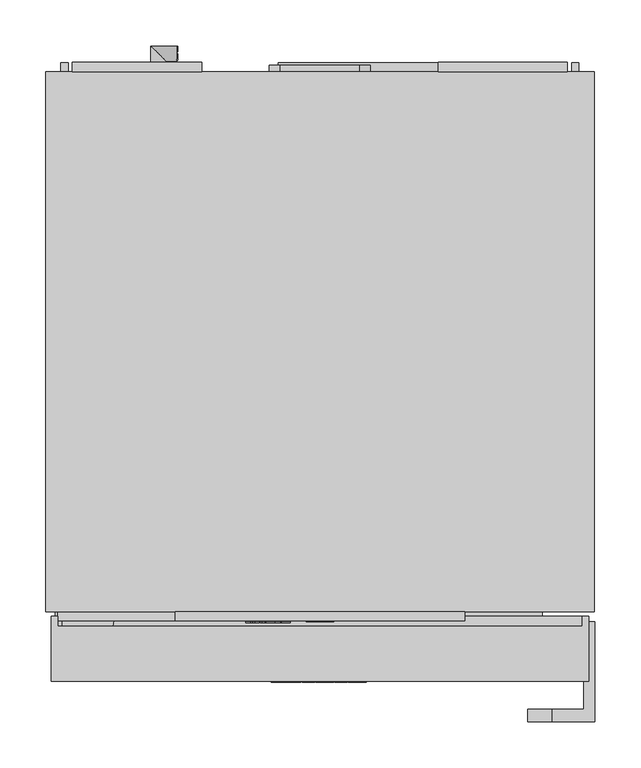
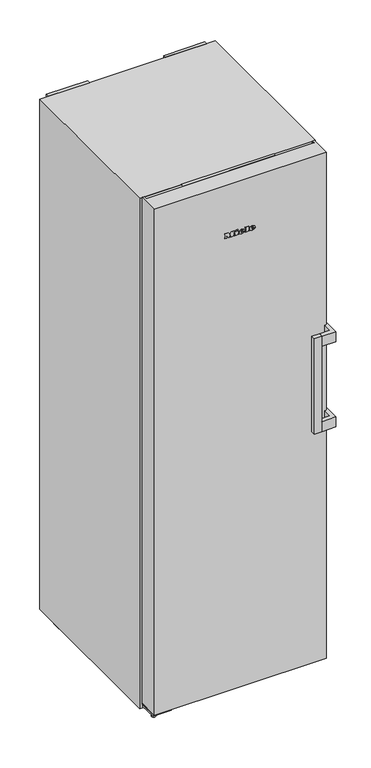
"""IFC4 building model written with IfcOpenShell, lengths in millimetres: proxy geometry, 12430480_EU2_FNS4382D_WS-N : 37438244_EU2_12430480_FNS4382D_WS-N."""

from ifc_helpers import new_model, si_unit, point, frame, frame_2d, origin, origin_with_axes, place, context, project, spatial, polyline, circle_curve, ellipse_curve, trimmed, segment, composite_curve, outline, extrude, faceted_brep, source, transform, mapped, element, save
from ifc_brep_helpers import plane_surface, cylinder_surface, revolved_surface, extruded_surface, advanced_brep


def specialty_equipment_2f4e0856(model_context):
    return source(origin(), model_context, "Body", "SolidModel", [
        extrude(outline(polyline([(15.0, -609.5), (-15.0, -609.5), (-15.0, -606.5), (15.0, -606.5), (15.0, -609.5)])), frame((0.0, 0.0, 1812.0), z_axis=(0.0, 0.0, 1.0), x_axis=(1.0, 0.0, 0.0)), (0.0, 0.0, 1.0), 28.0),
        extrude(outline(polyline([(1845.5, 105.0), (1845.5, -105.0), (1806.5, -105.0), (1806.5, 105.0), (1845.5, 105.0)]), holes=[polyline([(1840.0, -15.0), (1840.0, 15.0), (1812.0, 15.0), (1812.0, -15.0), (1840.0, -15.0)])]), frame((0.0, -608.5, 0.0), z_axis=(0.0, 1.0, 0.0), x_axis=(0.0, 0.0, 1.0)), (0.0, 0.0, 1.0), 2.0),
        faceted_brep([(157.5, -598.5, 1802.0), (157.5, -608.5, 1802.0), (-157.5, -608.5, 1802.0), (-157.5, -598.5, 1802.0), (157.5, -598.5, 1850.0), (-157.5, -598.5, 1850.0), (-157.5, -608.5, 1850.0), (157.5, -608.5, 1850.0), (-105.0, -608.5, 1845.5), (105.0, -608.5, 1845.5), (105.0, -608.5, 1806.5), (-105.0, -608.5, 1806.5), (105.0, -606.5, 1845.5), (-105.0, -606.5, 1845.5), (-105.0, -606.5, 1806.5), (105.0, -606.5, 1806.5)], [[[0, 1, 2, 3]], [[4, 5, 6, 7]], [[0, 3, 5, 4]], [[3, 2, 6, 5]], [[2, 1, 7, 6], [8, 9, 10, 11]], [[1, 0, 4, 7]], [[12, 13, 14, 15]], [[13, 12, 9, 8]], [[14, 13, 8, 11]], [[15, 14, 11, 10]], [[12, 15, 10, 9]]]),
        advanced_brep(
        [(39.0804776, -675.5, 1668.7956125), (39.0804776, -675.5, 1670.5126125), (50.4534776, -675.5, 1670.5126125), (30.6654776, -675.5, 1670.5126125), (35.3404776, -675.5, 1664.7666125), (50.1644776, -675.5, 1668.7956125), (45.0304776, -675.5, 1668.7956125), (40.9844776, -675.5, 1666.8916125), (39.0804776, -675.5, 1672.6886125), (39.0804776, -675.5, 1674.5416125), (41.9874776, -675.5, 1674.5416125), (41.9874776, -675.5, 1672.6886125), (39.0804776, -674.5, 1668.7956125), (40.9844776, -674.5, 1666.8916125), (45.0304776, -674.5, 1668.7956125), (50.1644776, -674.5, 1668.7956125), (35.3404776, -674.5, 1664.7666125), (30.6654776, -674.5, 1670.5126125), (50.4534776, -674.5, 1670.5126125), (39.0804776, -674.5, 1670.5126125), (39.0804776, -674.5, 1672.6886125), (41.9874776, -674.5, 1672.6886125), (41.9874776, -674.5, 1674.5416125), (39.0804776, -674.5, 1674.5416125)],
        [
            (0, 1),
            (1, 2),
            (2, 3, ellipse_curve(frame((40.5594776, -675.5, 1670.5126125), z_axis=(0.0, -1.0, 0.0), x_axis=(-1.0, 0.0, 0.0)), 9.894, 8.177)),
            (3, 4, circle_curve(frame((37.2445704, -675.5, 1671.0906125), z_axis=(0.0, -1.0, 0.0), x_axis=(0.0, 0.0, -1.0)), 6.6044337)),
            (4, 5, circle_curve(frame((40.361414, -675.5, 1675.5786125), z_axis=(0.0, -1.0, 0.0), x_axis=(0.0, 0.0, -1.0)), 11.9209541)),
            (5, 6),
            (6, 7, circle_curve(frame((41.8154776, -675.5, 1670.3766125), z_axis=(0.0, 1.0, 0.0), x_axis=(0.0, 0.0, -1.0)), 3.5827065)),
            (7, 0, circle_curve(frame((40.9844776, -675.5, 1668.7956125), z_axis=(0.0, 1.0, 0.0), x_axis=(0.0, 0.0, -1.0)), 1.904)),
            (8, 9),
            (9, 10, circle_curve(frame((40.5339776, -675.5, 1674.5416125), z_axis=(0.0, 1.0, 0.0), x_axis=(0.0, 0.0, -1.0)), 1.4535)),
            (10, 11),
            (11, 8),
            (12, 13, circle_curve(frame((40.9844776, -674.5, 1668.7956125), z_axis=(0.0, -1.0, 0.0), x_axis=(0.0, 0.0, -1.0)), 1.904)),
            (13, 14, circle_curve(frame((41.8154776, -674.5, 1670.3766125), z_axis=(0.0, -1.0, 0.0), x_axis=(0.0, 0.0, -1.0)), 3.5827065)),
            (14, 15),
            (15, 16, circle_curve(frame((40.361414, -674.5, 1675.5786125), z_axis=(0.0, 1.0, 0.0), x_axis=(0.0, 0.0, -1.0)), 11.9209541)),
            (16, 17, circle_curve(frame((37.2445704, -674.5, 1671.0906125), z_axis=(0.0, 1.0, 0.0), x_axis=(0.0, 0.0, -1.0)), 6.6044337)),
            (17, 18, ellipse_curve(frame((40.5594776, -674.5, 1670.5126125), z_axis=(0.0, 1.0, 0.0), x_axis=(-1.0, 0.0, 0.0)), 9.894, 8.177)),
            (18, 19),
            (19, 12),
            (20, 21),
            (21, 22),
            (22, 23, circle_curve(frame((40.5339776, -674.5, 1674.5416125), z_axis=(0.0, -1.0, 0.0), x_axis=(0.0, 0.0, -1.0)), 1.4535)),
            (23, 20),
            (0, 12),
            (19, 1),
            (18, 2),
            (5, 15),
            (14, 6),
            (17, 3),
            (13, 7),
            (16, 4),
            (8, 20),
            (23, 9),
            (22, 10),
            (21, 11),
        ],
        [
            plane_surface(frame((39.0804776, -675.5, 1670.5126125), z_axis=(0.0, -1.0, 0.0), x_axis=(0.0, 0.0, 1.0))),
            plane_surface(frame((39.0804776, -674.5, 1670.5126125), z_axis=(0.0, 1.0, 0.0), x_axis=(0.0, 0.0, -1.0))),
            plane_surface(frame((39.0804776, -675.5, 1668.7956125), z_axis=(1.0, 0.0, 0.0), x_axis=(0.0, 1.0, 0.0))),
            plane_surface(frame((39.0804776, -675.5, 1670.5126125), z_axis=(0.0, 0.0, -1.0), x_axis=(0.0, 1.0, 0.0))),
            plane_surface(frame((50.1644776, -675.5, 1668.7956125), z_axis=(0.0, 0.0, 1.0), x_axis=(0.0, 1.0, 0.0))),
            extruded_surface(trimmed(ellipse_curve(frame((40.5594776, -673.5, 1670.5126125), z_axis=(0.0, -1.0, 0.0), x_axis=(-1.0, 0.0, 0.0)), 9.894, 8.177), [point((50.4534776, -673.5, 1670.5126125))], [point((30.6654776, -673.5, 1670.5126125))], True, "CARTESIAN"), (0.0, -1.0, 0.0), 1.0),
            revolved_surface(polyline([(41.8154776, -674.5, 1666.7939059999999), (41.8154776, -675.5, 1666.7939059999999)]), (41.8154776, -674.5, 1670.3766125), (0.0, 1.0, 0.0)),
            revolved_surface(polyline([(40.9844776, -674.5, 1666.8916125), (40.9844776, -675.5, 1666.8916125)]), (40.9844776, -674.5, 1668.7956125), (0.0, 1.0, 0.0)),
            cylinder_surface(frame((37.2445704, -674.5, 1671.0906125), z_axis=(0.0, -1.0, 0.0), x_axis=(0.0, 0.0, -1.0)), 6.6044337),
            cylinder_surface(frame((40.361414, -674.5, 1675.5786125), z_axis=(0.0, -1.0, 0.0), x_axis=(0.0, 0.0, -1.0)), 11.9209541),
            plane_surface(frame((39.0804776, -675.5, 1672.6886125), z_axis=(1.0, 0.0, 0.0), x_axis=(0.0, 1.0, 0.0))),
            revolved_surface(polyline([(40.5339776, -674.5, 1673.0881124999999), (40.5339776, -675.5, 1673.0881124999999)]), (40.5339776, -674.5, 1674.5416125), (0.0, 1.0, 0.0)),
            plane_surface(frame((41.9874776, -675.5, 1674.5416125), z_axis=(-1.0, 0.0, 0.0), x_axis=(0.0, 1.0, 0.0))),
            plane_surface(frame((41.9874776, -675.5, 1672.6886125), z_axis=(0.0, 0.0, 1.0), x_axis=(0.0, 1.0, 0.0))),
        ],
        [
            (0, [[1, 2, 3, 4, 5, 6, 7, 8], [9, 10, 11, 12]]),
            (1, [[13, 14, 15, 16, 17, 18, 19, 20], [21, 22, 23, 24]]),
            (2, [[-1, 25, -20, 26]]),
            (3, [[-2, -26, -19, 27]]),
            (4, [[-6, 28, -15, 29]]),
            (5, [[-3, -27, -18, 30]]),
            (6, [[-7, -29, -14, 31]]),
            (7, [[-8, -31, -13, -25]]),
            (8, [[-4, -30, -17, 32]]),
            (9, [[-5, -32, -16, -28]]),
            (10, [[-9, 33, -24, 34]]),
            (11, [[-10, -34, -23, 35]]),
            (12, [[-11, -35, -22, 36]]),
            (13, [[-12, -36, -21, -33]]),
        ],
    ),
        advanced_brep(
        [(3.6014776, -675.5, 1668.7956125), (3.6014776, -675.5, 1670.5126125), (14.9744776, -675.5, 1670.5126125), (-4.8135224, -675.5, 1670.5126125), (-0.1385224, -675.5, 1664.7666125), (14.6854776, -675.5, 1668.7956125), (9.5514776, -675.5, 1668.7956125), (5.5054776, -675.5, 1666.8916125), (3.6014776, -675.5, 1672.6886125), (3.6014776, -675.5, 1674.5416125), (6.5084776, -675.5, 1674.5416125), (6.5084776, -675.5, 1672.6886125), (3.6014776, -674.5, 1668.7956125), (5.5054776, -674.5, 1666.8916125), (9.5514776, -674.5, 1668.7956125), (14.6854776, -674.5, 1668.7956125), (-0.1385224, -674.5, 1664.7666125), (-4.8135224, -674.5, 1670.5126125), (14.9744776, -674.5, 1670.5126125), (3.6014776, -674.5, 1670.5126125), (3.6014776, -674.5, 1672.6886125), (6.5084776, -674.5, 1672.6886125), (6.5084776, -674.5, 1674.5416125), (3.6014776, -674.5, 1674.5416125)],
        [
            (0, 1),
            (1, 2),
            (2, 3, ellipse_curve(frame((5.0804776, -675.5, 1670.5126125), z_axis=(0.0, -1.0, 0.0), x_axis=(-1.0, 0.0, 0.0)), 9.894, 8.177)),
            (3, 4, circle_curve(frame((1.7655704, -675.5, 1671.0906125), z_axis=(0.0, -1.0, 0.0), x_axis=(0.0, 0.0, -1.0)), 6.6044337)),
            (4, 5, circle_curve(frame((4.882414, -675.5, 1675.5786125), z_axis=(0.0, -1.0, 0.0), x_axis=(0.0, 0.0, -1.0)), 11.9209541)),
            (5, 6),
            (6, 7, circle_curve(frame((6.3364776, -675.5, 1670.3766125), z_axis=(0.0, 1.0, 0.0), x_axis=(0.0, 0.0, -1.0)), 3.5827065)),
            (7, 0, circle_curve(frame((5.5054776, -675.5, 1668.7956125), z_axis=(0.0, 1.0, 0.0), x_axis=(0.0, 0.0, -1.0)), 1.904)),
            (8, 9),
            (9, 10, circle_curve(frame((5.0549776, -675.5, 1674.5416125), z_axis=(0.0, 1.0, 0.0), x_axis=(0.0, 0.0, -1.0)), 1.4535)),
            (10, 11),
            (11, 8),
            (12, 13, circle_curve(frame((5.5054776, -674.5, 1668.7956125), z_axis=(0.0, -1.0, 0.0), x_axis=(0.0, 0.0, -1.0)), 1.904)),
            (13, 14, circle_curve(frame((6.3364776, -674.5, 1670.3766125), z_axis=(0.0, -1.0, 0.0), x_axis=(0.0, 0.0, -1.0)), 3.5827065)),
            (14, 15),
            (15, 16, circle_curve(frame((4.882414, -674.5, 1675.5786125), z_axis=(0.0, 1.0, 0.0), x_axis=(0.0, 0.0, -1.0)), 11.9209541)),
            (16, 17, circle_curve(frame((1.7655704, -674.5, 1671.0906125), z_axis=(0.0, 1.0, 0.0), x_axis=(0.0, 0.0, -1.0)), 6.6044337)),
            (17, 18, ellipse_curve(frame((5.0804776, -674.5, 1670.5126125), z_axis=(0.0, 1.0, 0.0), x_axis=(-1.0, 0.0, 0.0)), 9.894, 8.177)),
            (18, 19),
            (19, 12),
            (20, 21),
            (21, 22),
            (22, 23, circle_curve(frame((5.0549776, -674.5, 1674.5416125), z_axis=(0.0, -1.0, 0.0), x_axis=(0.0, 0.0, -1.0)), 1.4535)),
            (23, 20),
            (0, 12),
            (19, 1),
            (18, 2),
            (5, 15),
            (14, 6),
            (17, 3),
            (13, 7),
            (16, 4),
            (8, 20),
            (23, 9),
            (22, 10),
            (21, 11),
        ],
        [
            plane_surface(frame((3.6014776, -675.5, 1670.5126125), z_axis=(0.0, -1.0, 0.0), x_axis=(0.0, 0.0, 1.0))),
            plane_surface(frame((3.6014776, -674.5, 1670.5126125), z_axis=(0.0, 1.0, 0.0), x_axis=(0.0, 0.0, -1.0))),
            plane_surface(frame((3.6014776, -675.5, 1668.7956125), z_axis=(1.0, 0.0, 0.0), x_axis=(0.0, 1.0, 0.0))),
            plane_surface(frame((3.6014776, -675.5, 1670.5126125), z_axis=(0.0, 0.0, -1.0), x_axis=(0.0, 1.0, 0.0))),
            plane_surface(frame((14.6854776, -675.5, 1668.7956125), z_axis=(0.0, 0.0, 1.0), x_axis=(0.0, 1.0, 0.0))),
            extruded_surface(trimmed(ellipse_curve(frame((5.0804776, -673.5, 1670.5126125), z_axis=(0.0, -1.0, 0.0), x_axis=(-1.0, 0.0, 0.0)), 9.894, 8.177), [point((14.9744776, -673.5, 1670.5126125))], [point((-4.8135224, -673.5, 1670.5126125))], True, "CARTESIAN"), (0.0, -1.0, 0.0), 1.0),
            revolved_surface(polyline([(6.3364776, -674.5, 1666.7939059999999), (6.3364776, -675.5, 1666.7939059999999)]), (6.3364776, -674.5, 1670.3766125), (0.0, 1.0, 0.0)),
            revolved_surface(polyline([(5.5054776, -674.5, 1666.8916125), (5.5054776, -675.5, 1666.8916125)]), (5.5054776, -674.5, 1668.7956125), (0.0, 1.0, 0.0)),
            cylinder_surface(frame((1.7655704, -674.5, 1671.0906125), z_axis=(0.0, -1.0, 0.0), x_axis=(0.0, 0.0, -1.0)), 6.6044337),
            cylinder_surface(frame((4.882414, -674.5, 1675.5786125), z_axis=(0.0, -1.0, 0.0), x_axis=(0.0, 0.0, -1.0)), 11.9209541),
            plane_surface(frame((3.6014776, -675.5, 1672.6886125), z_axis=(1.0, 0.0, 0.0), x_axis=(0.0, 1.0, 0.0))),
            revolved_surface(polyline([(5.0549776, -674.5, 1673.0881124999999), (5.0549776, -675.5, 1673.0881124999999)]), (5.0549776, -674.5, 1674.5416125), (0.0, 1.0, 0.0)),
            plane_surface(frame((6.5084776, -675.5, 1674.5416125), z_axis=(-1.0, 0.0, 0.0), x_axis=(0.0, 1.0, 0.0))),
            plane_surface(frame((6.5084776, -675.5, 1672.6886125), z_axis=(0.0, 0.0, 1.0), x_axis=(0.0, 1.0, 0.0))),
        ],
        [
            (0, [[1, 2, 3, 4, 5, 6, 7, 8], [9, 10, 11, 12]]),
            (1, [[13, 14, 15, 16, 17, 18, 19, 20], [21, 22, 23, 24]]),
            (2, [[-1, 25, -20, 26]]),
            (3, [[-2, -26, -19, 27]]),
            (4, [[-6, 28, -15, 29]]),
            (5, [[-3, -27, -18, 30]]),
            (6, [[-7, -29, -14, 31]]),
            (7, [[-8, -31, -13, -25]]),
            (8, [[-4, -30, -17, 32]]),
            (9, [[-5, -32, -16, -28]]),
            (10, [[-9, 33, -24, 34]]),
            (11, [[-10, -34, -23, 35]]),
            (12, [[-11, -35, -22, 36]]),
            (13, [[-12, -36, -21, -33]]),
        ],
    ),
        extrude(outline(polyline([(1680.7636125, -14.9795224), (1678.0096125, -13.6875224), (1680.6956125, -7.9245224), (1683.4496125, -9.1995224), (1680.7636125, -14.9795224)])), frame((0.0, -675.5, 0.0), z_axis=(0.0, 1.0, 0.0), x_axis=(0.0, 0.0, 1.0)), (0.0, 0.0, 1.0), 1.0),
        extrude(outline(polyline([(1677.6356125, -19.1785224), (1674.5926125, -19.1785224), (1674.5926125, -17.1555224), (1667.6226125, -17.1555224), (1667.6226125, -19.1785224), (1664.7666125, -19.1785224), (1664.7666125, -5.7655224), (1667.6226125, -5.7655224), (1667.6226125, -7.7375224), (1677.6356125, -7.7375224), (1677.6356125, -19.1785224)])), frame((0.0, -675.5, 0.0), z_axis=(0.0, 1.0, 0.0), x_axis=(0.0, 0.0, 1.0)), (0.0, 0.0, 1.0), 1.0),
        extrude(outline(polyline([(1678.9956125, 15.9264776), (1678.9956125, 17.9664776), (1667.6226125, 17.9664776), (1667.6226125, 15.9264776), (1664.7666125, 15.9264776), (1664.7666125, 29.7134776), (1667.6226125, 29.7134776), (1667.6226125, 27.6224776), (1681.7666125, 27.6224776), (1681.7666125, 15.9264776), (1678.9956125, 15.9264776)])), frame((0.0, -675.5, 0.0), z_axis=(0.0, 1.0, 0.0), x_axis=(0.0, 0.0, 1.0)), (0.0, 0.0, 1.0), 1.0),
        extrude(outline(polyline([(1678.9956125, -53.0595224), (1678.9956125, -51.0025224), (1667.6226125, -51.0025224), (1667.6226125, -53.0595224), (1664.7666125, -53.0595224), (1664.7666125, -45.5795224), (1667.6226125, -45.5795224), (1667.6226125, -47.6195224), (1674.7967372, -47.6195224), (1664.7666125, -40.0205224), (1675.2068348, -32.3875224), (1667.6226125, -32.3875224), (1667.6226125, -34.4785224), (1664.7666125, -34.4785224), (1664.7666125, -20.9125224), (1667.6226125, -20.9125224), (1667.6226125, -23.0715224), (1678.9956125, -23.0715224), (1678.9956125, -20.9125224), (1681.7666125, -20.9125224), (1681.7666125, -31.2655224), (1675.3916125, -36.2295224), (1681.7666125, -41.2105224), (1681.7666125, -53.0595224), (1678.9956125, -53.0595224)])), frame((0.0, -675.5, 0.0), z_axis=(0.0, 1.0, 0.0), x_axis=(0.0, 0.0, 1.0)), (0.0, 0.0, 1.0), 1.0),
        advanced_brep(
        [(-37.64, -610.5, 1828.896), (-37.64, -610.5, 1829.704), (-32.288, -610.5, 1829.704), (-41.6, -610.5, 1829.704), (-39.4, -610.5, 1827.0), (-32.424, -610.5, 1828.896), (-34.84, -610.5, 1828.896), (-36.744, -610.5, 1828.0), (-37.64, -610.5, 1830.728), (-37.64, -610.5, 1831.6), (-36.272, -610.5, 1831.6), (-36.272, -610.5, 1830.728), (-37.64, -609.5, 1828.896), (-36.744, -609.5, 1828.0), (-34.84, -609.5, 1828.896), (-32.424, -609.5, 1828.896), (-39.4, -609.5, 1827.0), (-41.6, -609.5, 1829.704), (-32.288, -609.5, 1829.704), (-37.64, -609.5, 1829.704), (-37.64, -609.5, 1830.728), (-36.272, -609.5, 1830.728), (-36.272, -609.5, 1831.6), (-37.64, -609.5, 1831.6)],
        [
            (0, 1),
            (1, 2),
            (2, 3, ellipse_curve(frame((-36.944, -610.5, 1829.704), z_axis=(0.0, -1.0, 0.0), x_axis=(-1.0, 0.0, 0.0)), 4.656, 3.848)),
            (3, 4, circle_curve(frame((-38.5039564, -610.5, 1829.976), z_axis=(0.0, -1.0, 0.0), x_axis=(0.0, 0.0, -1.0)), 3.1079688)),
            (4, 5, circle_curve(frame((-37.0372064, -610.5, 1832.088), z_axis=(0.0, -1.0, 0.0), x_axis=(0.0, 0.0, -1.0)), 5.6098607)),
            (5, 6),
            (6, 7, circle_curve(frame((-36.3529412, -610.5, 1829.64), z_axis=(0.0, 1.0, 0.0), x_axis=(0.0, 0.0, -1.0)), 1.6859795)),
            (7, 0, circle_curve(frame((-36.744, -610.5, 1828.896), z_axis=(0.0, 1.0, 0.0), x_axis=(0.0, 0.0, -1.0)), 0.896)),
            (8, 9),
            (9, 10, circle_curve(frame((-36.956, -610.5, 1831.6), z_axis=(0.0, 1.0, 0.0), x_axis=(0.0, 0.0, -1.0)), 0.684)),
            (10, 11),
            (11, 8),
            (12, 13, circle_curve(frame((-36.744, -609.5, 1828.896), z_axis=(0.0, -1.0, 0.0), x_axis=(0.0, 0.0, -1.0)), 0.896)),
            (13, 14, circle_curve(frame((-36.3529412, -609.5, 1829.64), z_axis=(0.0, -1.0, 0.0), x_axis=(0.0, 0.0, -1.0)), 1.6859795)),
            (14, 15),
            (15, 16, circle_curve(frame((-37.0372064, -609.5, 1832.088), z_axis=(0.0, 1.0, 0.0), x_axis=(0.0, 0.0, -1.0)), 5.6098607)),
            (16, 17, circle_curve(frame((-38.5039564, -609.5, 1829.976), z_axis=(0.0, 1.0, 0.0), x_axis=(0.0, 0.0, -1.0)), 3.1079688)),
            (17, 18, ellipse_curve(frame((-36.944, -609.5, 1829.704), z_axis=(0.0, 1.0, 0.0), x_axis=(-1.0, 0.0, 0.0)), 4.656, 3.848)),
            (18, 19),
            (19, 12),
            (20, 21),
            (21, 22),
            (22, 23, circle_curve(frame((-36.956, -609.5, 1831.6), z_axis=(0.0, -1.0, 0.0), x_axis=(0.0, 0.0, -1.0)), 0.684)),
            (23, 20),
            (0, 12),
            (19, 1),
            (18, 2),
            (5, 15),
            (14, 6),
            (17, 3),
            (13, 7),
            (16, 4),
            (8, 20),
            (23, 9),
            (22, 10),
            (21, 11),
        ],
        [
            plane_surface(frame((-37.64, -610.5, 1829.704), z_axis=(0.0, -1.0, 0.0), x_axis=(0.0, 0.0, 1.0))),
            plane_surface(frame((-37.64, -609.5, 1829.704), z_axis=(0.0, 1.0, 0.0), x_axis=(0.0, 0.0, -1.0))),
            plane_surface(frame((-37.64, -610.5, 1828.896), z_axis=(1.0, 0.0, 0.0), x_axis=(0.0, 1.0, 0.0))),
            plane_surface(frame((-37.64, -610.5, 1829.704), z_axis=(0.0, 0.0, -1.0), x_axis=(0.0, 1.0, 0.0))),
            plane_surface(frame((-32.424, -610.5, 1828.896), z_axis=(0.0, 0.0, 1.0), x_axis=(0.0, 1.0, 0.0))),
            extruded_surface(trimmed(ellipse_curve(frame((-36.944, -608.5, 1829.704), z_axis=(0.0, -1.0, 0.0), x_axis=(-1.0, 0.0, 0.0)), 4.656, 3.848), [point((-32.288, -608.5, 1829.704))], [point((-41.6, -608.5, 1829.704))], True, "CARTESIAN"), (0.0, -1.0, 0.0), 1.0),
            revolved_surface(polyline([(-36.3529412, -609.5, 1827.9540205), (-36.3529412, -610.5, 1827.9540205)]), (-36.3529412, -609.5, 1829.64), (0.0, 1.0, 0.0)),
            revolved_surface(polyline([(-36.744, -609.5, 1828.0), (-36.744, -610.5, 1828.0)]), (-36.744, -609.5, 1828.896), (0.0, 1.0, 0.0)),
            cylinder_surface(frame((-38.5039564, -609.5, 1829.976), z_axis=(0.0, -1.0, 0.0), x_axis=(0.0, 0.0, -1.0)), 3.1079688),
            cylinder_surface(frame((-37.0372064, -609.5, 1832.088), z_axis=(0.0, -1.0, 0.0), x_axis=(0.0, 0.0, -1.0)), 5.6098607),
            plane_surface(frame((-37.64, -610.5, 1830.728), z_axis=(1.0, 0.0, 0.0), x_axis=(0.0, 1.0, 0.0))),
            revolved_surface(polyline([(-36.956, -609.5, 1830.916), (-36.956, -610.5, 1830.916)]), (-36.956, -609.5, 1831.6), (0.0, 1.0, 0.0)),
            plane_surface(frame((-36.272, -610.5, 1831.6), z_axis=(-1.0, 0.0, 0.0), x_axis=(0.0, 1.0, 0.0))),
            plane_surface(frame((-36.272, -610.5, 1830.728), z_axis=(0.0, 0.0, 1.0), x_axis=(0.0, 1.0, 0.0))),
        ],
        [
            (0, [[1, 2, 3, 4, 5, 6, 7, 8], [9, 10, 11, 12]]),
            (1, [[13, 14, 15, 16, 17, 18, 19, 20], [21, 22, 23, 24]]),
            (2, [[-1, 25, -20, 26]]),
            (3, [[-2, -26, -19, 27]]),
            (4, [[-6, 28, -15, 29]]),
            (5, [[-3, -27, -18, 30]]),
            (6, [[-7, -29, -14, 31]]),
            (7, [[-8, -31, -13, -25]]),
            (8, [[-4, -30, -17, 32]]),
            (9, [[-5, -32, -16, -28]]),
            (10, [[-9, 33, -24, 34]]),
            (11, [[-10, -34, -23, 35]]),
            (12, [[-11, -35, -22, 36]]),
            (13, [[-12, -36, -21, -33]]),
        ],
    ),
        advanced_brep(
        [(-54.336, -610.5, 1828.896), (-54.336, -610.5, 1829.704), (-48.984, -610.5, 1829.704), (-58.296, -610.5, 1829.704), (-56.096, -610.5, 1827.0), (-49.12, -610.5, 1828.896), (-51.536, -610.5, 1828.896), (-53.44, -610.5, 1828.0), (-54.336, -610.5, 1830.728), (-54.336, -610.5, 1831.6), (-52.968, -610.5, 1831.6), (-52.968, -610.5, 1830.728), (-54.336, -609.5, 1828.896), (-53.44, -609.5, 1828.0), (-51.536, -609.5, 1828.896), (-49.12, -609.5, 1828.896), (-56.096, -609.5, 1827.0), (-58.296, -609.5, 1829.704), (-48.984, -609.5, 1829.704), (-54.336, -609.5, 1829.704), (-54.336, -609.5, 1830.728), (-52.968, -609.5, 1830.728), (-52.968, -609.5, 1831.6), (-54.336, -609.5, 1831.6)],
        [
            (0, 1),
            (1, 2),
            (2, 3, ellipse_curve(frame((-53.64, -610.5, 1829.704), z_axis=(0.0, -1.0, 0.0), x_axis=(-1.0, 0.0, 0.0)), 4.656, 3.848)),
            (3, 4, circle_curve(frame((-55.1999564, -610.5, 1829.976), z_axis=(0.0, -1.0, 0.0), x_axis=(0.0, 0.0, -1.0)), 3.1079688)),
            (4, 5, circle_curve(frame((-53.7332064, -610.5, 1832.088), z_axis=(0.0, -1.0, 0.0), x_axis=(0.0, 0.0, -1.0)), 5.6098607)),
            (5, 6),
            (6, 7, circle_curve(frame((-53.0489412, -610.5, 1829.64), z_axis=(0.0, 1.0, 0.0), x_axis=(0.0, 0.0, -1.0)), 1.6859795)),
            (7, 0, circle_curve(frame((-53.44, -610.5, 1828.896), z_axis=(0.0, 1.0, 0.0), x_axis=(0.0, 0.0, -1.0)), 0.896)),
            (8, 9),
            (9, 10, circle_curve(frame((-53.652, -610.5, 1831.6), z_axis=(0.0, 1.0, 0.0), x_axis=(0.0, 0.0, -1.0)), 0.684)),
            (10, 11),
            (11, 8),
            (12, 13, circle_curve(frame((-53.44, -609.5, 1828.896), z_axis=(0.0, -1.0, 0.0), x_axis=(0.0, 0.0, -1.0)), 0.896)),
            (13, 14, circle_curve(frame((-53.0489412, -609.5, 1829.64), z_axis=(0.0, -1.0, 0.0), x_axis=(0.0, 0.0, -1.0)), 1.6859795)),
            (14, 15),
            (15, 16, circle_curve(frame((-53.7332064, -609.5, 1832.088), z_axis=(0.0, 1.0, 0.0), x_axis=(0.0, 0.0, -1.0)), 5.6098607)),
            (16, 17, circle_curve(frame((-55.1999564, -609.5, 1829.976), z_axis=(0.0, 1.0, 0.0), x_axis=(0.0, 0.0, -1.0)), 3.1079688)),
            (17, 18, ellipse_curve(frame((-53.64, -609.5, 1829.704), z_axis=(0.0, 1.0, 0.0), x_axis=(-1.0, 0.0, 0.0)), 4.656, 3.848)),
            (18, 19),
            (19, 12),
            (20, 21),
            (21, 22),
            (22, 23, circle_curve(frame((-53.652, -609.5, 1831.6), z_axis=(0.0, -1.0, 0.0), x_axis=(0.0, 0.0, -1.0)), 0.684)),
            (23, 20),
            (0, 12),
            (19, 1),
            (18, 2),
            (5, 15),
            (14, 6),
            (17, 3),
            (13, 7),
            (16, 4),
            (8, 20),
            (23, 9),
            (22, 10),
            (21, 11),
        ],
        [
            plane_surface(frame((-54.336, -610.5, 1829.704), z_axis=(0.0, -1.0, 0.0), x_axis=(0.0, 0.0, 1.0))),
            plane_surface(frame((-54.336, -609.5, 1829.704), z_axis=(0.0, 1.0, 0.0), x_axis=(0.0, 0.0, -1.0))),
            plane_surface(frame((-54.336, -610.5, 1828.896), z_axis=(1.0, 0.0, 0.0), x_axis=(0.0, 1.0, 0.0))),
            plane_surface(frame((-54.336, -610.5, 1829.704), z_axis=(0.0, 0.0, -1.0), x_axis=(0.0, 1.0, 0.0))),
            plane_surface(frame((-49.12, -610.5, 1828.896), z_axis=(0.0, 0.0, 1.0), x_axis=(0.0, 1.0, 0.0))),
            extruded_surface(trimmed(ellipse_curve(frame((-53.64, -608.5, 1829.704), z_axis=(0.0, -1.0, 0.0), x_axis=(-1.0, 0.0, 0.0)), 4.656, 3.848), [point((-48.984, -608.5, 1829.704))], [point((-58.296, -608.5, 1829.704))], True, "CARTESIAN"), (0.0, -1.0, 0.0), 1.0),
            revolved_surface(polyline([(-53.0489412, -609.5, 1827.9540205), (-53.0489412, -610.5, 1827.9540205)]), (-53.0489412, -609.5, 1829.64), (0.0, 1.0, 0.0)),
            revolved_surface(polyline([(-53.44, -609.5, 1828.0), (-53.44, -610.5, 1828.0)]), (-53.44, -609.5, 1828.896), (0.0, 1.0, 0.0)),
            cylinder_surface(frame((-55.1999564, -609.5, 1829.976), z_axis=(0.0, -1.0, 0.0), x_axis=(0.0, 0.0, -1.0)), 3.1079688),
            cylinder_surface(frame((-53.7332064, -609.5, 1832.088), z_axis=(0.0, -1.0, 0.0), x_axis=(0.0, 0.0, -1.0)), 5.6098607),
            plane_surface(frame((-54.336, -610.5, 1830.728), z_axis=(1.0, 0.0, 0.0), x_axis=(0.0, 1.0, 0.0))),
            revolved_surface(polyline([(-53.652, -609.5, 1830.916), (-53.652, -610.5, 1830.916)]), (-53.652, -609.5, 1831.6), (0.0, 1.0, 0.0)),
            plane_surface(frame((-52.968, -610.5, 1831.6), z_axis=(-1.0, 0.0, 0.0), x_axis=(0.0, 1.0, 0.0))),
            plane_surface(frame((-52.968, -610.5, 1830.728), z_axis=(0.0, 0.0, 1.0), x_axis=(0.0, 1.0, 0.0))),
        ],
        [
            (0, [[1, 2, 3, 4, 5, 6, 7, 8], [9, 10, 11, 12]]),
            (1, [[13, 14, 15, 16, 17, 18, 19, 20], [21, 22, 23, 24]]),
            (2, [[-1, 25, -20, 26]]),
            (3, [[-2, -26, -19, 27]]),
            (4, [[-6, 28, -15, 29]]),
            (5, [[-3, -27, -18, 30]]),
            (6, [[-7, -29, -14, 31]]),
            (7, [[-8, -31, -13, -25]]),
            (8, [[-4, -30, -17, 32]]),
            (9, [[-5, -32, -16, -28]]),
            (10, [[-9, 33, -24, 34]]),
            (11, [[-10, -34, -23, 35]]),
            (12, [[-11, -35, -22, 36]]),
            (13, [[-12, -36, -21, -33]]),
        ],
    ),
        extrude(outline(polyline([(1834.528, -63.08), (1833.232, -62.472), (1834.496, -59.76), (1835.792, -60.36), (1834.528, -63.08)])), frame((0.0, -610.5, 0.0), z_axis=(0.0, 1.0, 0.0), x_axis=(0.0, 0.0, 1.0)), (0.0, 0.0, 1.0), 1.0),
        extrude(outline(polyline([(1833.056, -65.056), (1831.624, -65.056), (1831.624, -64.104), (1828.344, -64.104), (1828.344, -65.056), (1827.0, -65.056), (1827.0, -58.744), (1828.344, -58.744), (1828.344, -59.672), (1833.056, -59.672), (1833.056, -65.056)])), frame((0.0, -610.5, 0.0), z_axis=(0.0, 1.0, 0.0), x_axis=(0.0, 0.0, 1.0)), (0.0, 0.0, 1.0), 1.0),
        extrude(outline(polyline([(1833.696, -48.536), (1833.696, -47.576), (1828.344, -47.576), (1828.344, -48.536), (1827.0, -48.536), (1827.0, -42.048), (1828.344, -42.048), (1828.344, -43.032), (1835.0, -43.032), (1835.0, -48.536), (1833.696, -48.536)])), frame((0.0, -610.5, 0.0), z_axis=(0.0, 1.0, 0.0), x_axis=(0.0, 0.0, 1.0)), (0.0, 0.0, 1.0), 1.0),
        extrude(outline(polyline([(1833.696, -81.0), (1833.696, -80.032), (1828.344, -80.032), (1828.344, -81.0), (1827.0, -81.0), (1827.0, -77.48), (1828.344, -77.48), (1828.344, -78.44), (1831.7471247, -78.44), (1827.0, -74.864), (1831.8152223, -71.272), (1828.344, -71.272), (1828.344, -72.256), (1827.0, -72.256), (1827.0, -65.872), (1828.344, -65.872), (1828.344, -66.888), (1833.696, -66.888), (1833.696, -65.872), (1835.0, -65.872), (1835.0, -70.744), (1832.0, -73.08), (1835.0, -75.424), (1835.0, -81.0), (1833.696, -81.0)])), frame((0.0, -610.5, 0.0), z_axis=(0.0, 1.0, 0.0), x_axis=(0.0, 0.0, 1.0)), (0.0, 0.0, 1.0), 1.0),
        extrude(outline(polyline([(-42.8527823, 0.0), (-48.1304417, 3.2708192), (-29.8908031, 3.2708192), (-34.9274229, 0.0), (-42.8527823, 0.0)])), frame((238.5469678, 0.0, 0.0), z_axis=(1.0, 0.0, 0.0), x_axis=(0.0, 1.0, 0.0)), (0.0, 0.0, 1.0), 15.1632647),
        extrude(outline(polyline([(-42.8527823, 0.0), (-48.1304417, 3.2708192), (-29.8908031, 3.2708192), (-34.9274229, 0.0), (-42.8527823, 0.0)])), frame((-253.7102325, 0.0, 0.0), z_axis=(1.0, 0.0, 0.0), x_axis=(0.0, 1.0, 0.0)), (0.0, 0.0, 1.0), 15.1632647),
        extrude(outline(polyline([(2.1227397, 65.0), (2.1227397, 75.045631), (9.343037, 75.045631), (9.343037, 73.7899271), (3.3784436, 73.7899271), (3.3784436, 70.8076304), (9.029111, 70.8076304), (9.029111, 69.5519266), (3.3784436, 69.5519266), (3.3784436, 66.2557039), (9.5, 66.2557039), (9.5, 65.0), (2.1227397, 65.0)])), frame((-156.0615355, 0.0, 0.0), z_axis=(1.0, 0.0, 0.0), x_axis=(0.0, 1.0, 0.0)), (0.0, 0.0, 1.0), 1.0),
        extrude(outline(polyline([(11.3835558, 65.0), (11.3835558, 75.045631), (12.6392597, 75.045631), (12.6392597, 66.2557039), (17.6620752, 66.2557039), (17.6620752, 65.0), (11.3835558, 65.0)])), frame((-156.0615355, 0.0, 0.0), z_axis=(1.0, 0.0, 0.0), x_axis=(0.0, 1.0, 0.0)), (0.0, 0.0, 1.0), 1.0),
        advanced_brep(
        [(-168.0615355, -10.5, 70.0), (-184.0615355, -10.5, 70.0), (-168.0615355, 1.5, 70.0), (-184.0615355, 17.5, 70.0), (-156.0615355, 1.5, 70.0), (-156.0615355, 17.5, 70.0)],
        [
            (0, 1, circle_curve(frame((-176.0615355, -10.5, 70.0), z_axis=(0.0, -1.0, 0.0), x_axis=(-1.0, 0.0, 0.0)), 8.0)),
            (1, 0, circle_curve(frame((-176.0615355, -10.5, 70.0), z_axis=(0.0, -1.0, 0.0), x_axis=(-1.0, 0.0, 0.0)), 8.0)),
            (0, 2),
            (2, 3, ellipse_curve(frame((-176.0615355, 9.5, 70.0), z_axis=(-0.7071067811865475, -0.7071067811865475, 0.0), x_axis=(0.7071067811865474, -0.7071067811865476, 0.0)), 11.3137085, 8.0)),
            (3, 1),
            (3, 2, ellipse_curve(frame((-176.0615355, 9.5, 70.0), z_axis=(-0.7071067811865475, -0.7071067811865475, 0.0), x_axis=(0.7071067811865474, -0.7071067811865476, 0.0)), 11.3137085, 8.0)),
            (4, 5, circle_curve(frame((-156.0615355, 9.5, 70.0), z_axis=(1.0, 0.0, 0.0), x_axis=(0.0, 1.0, 0.0)), 8.0)),
            (5, 4, circle_curve(frame((-156.0615355, 9.5, 70.0), z_axis=(1.0, 0.0, 0.0), x_axis=(0.0, 1.0, 0.0)), 8.0)),
            (2, 4),
            (5, 3),
        ],
        [
            plane_surface(frame((-176.0615355, -10.5, 0.0), z_axis=(0.0, -1.0, 0.0), x_axis=(0.0, 0.0, 1.0))),
            cylinder_surface(frame((-176.0615355, -10.5, 70.0), z_axis=(0.0, -1.0, 0.0), x_axis=(-1.0, 0.0, 0.0)), 8.0),
            plane_surface(frame((-156.0615355, 9.5, 0.0), z_axis=(1.0, 0.0, 0.0), x_axis=(0.0, 0.0, 1.0))),
            cylinder_surface(frame((-176.0615355, 9.5, 70.0), z_axis=(-1.0, 0.0, 0.0), x_axis=(0.0, 1.0, 0.0)), 8.0),
        ],
        [
            (0, [[1, 2]]),
            (1, [[-1, 3, 4, 5]]),
            (1, [[-2, -5, 6, -3]]),
            (2, [[7, 8]]),
            (3, [[-4, 9, -8, 10]]),
            (3, [[-6, -10, -7, -9]]),
        ],
    ),
        extrude(outline(polyline([(-118.9841834, 15.0), (-62.9841834, 15.0), (-75.5706779, 0.0), (-106.3976889, 0.0), (-118.9841834, 15.0)])), frame((-288.5, 0.0, 0.0), z_axis=(1.0, 0.0, 0.0), x_axis=(0.0, 1.0, 0.0)), (0.0, 0.0, 1.0), 16.0),
        extrude(outline(polyline([(-118.9841834, 15.0), (-62.9841834, 15.0), (-75.5706779, 0.0), (-106.3976889, 0.0), (-118.9841834, 15.0)])), frame((272.5, 0.0, 0.0), z_axis=(1.0, 0.0, 0.0), x_axis=(0.0, 1.0, 0.0)), (0.0, 0.0, 1.0), 16.0),
        extrude(outline(polyline([(281.8051758, -10.5), (274.2947998, -10.5), (274.2947998, -0.5), (281.8051758, -0.5), (281.8051758, -10.5)])), frame((0.0, 0.0, 239.4947815), z_axis=(0.0, 0.0, 1.0), x_axis=(1.0, 0.0, 0.0)), (0.0, 0.0, 1.0), 18.4103699),
        extrude(outline(polyline([(-274.0827332, -10.5), (-282.1051331, -10.5), (-282.1051331, -0.5), (-274.0827332, -0.5), (-274.0827332, -10.5)])), frame((0.0, 0.0, 239.4947815), z_axis=(0.0, 0.0, 1.0), x_axis=(1.0, 0.0, 0.0)), (0.0, 0.0, 1.0), 18.3224792),
        extrude(outline(polyline([(190.0, 177.5), (133.0, 177.5), (133.0, -45.5), (64.0, -45.5), (64.0, 258.5), (190.0, 258.5), (190.0, 177.5)])), frame((0.0, -10.5, 0.0), z_axis=(0.0, 1.0, 0.0), x_axis=(0.0, 0.0, 1.0)), (0.0, 0.0, 1.0), 10.0),
        extrude(outline(polyline([(269.5372046, -10.5), (129.0, -10.5), (129.0, 0.0), (269.5372046, 0.0), (269.5372046, -10.5)])), frame((0.0, 0.0, 1826.0), z_axis=(0.0, 0.0, 1.0), x_axis=(1.0, 0.0, 0.0)), (0.0, 0.0, 1.0), 24.0),
        extrude(outline(polyline([(-129.0, -10.5), (-269.5372046, -10.5), (-269.5372046, 0.0), (-129.0, 0.0), (-129.0, -10.5)])), frame((0.0, 0.0, 1826.0), z_axis=(0.0, 0.0, 1.0), x_axis=(1.0, 0.0, 0.0)), (0.0, 0.0, 1.0), 24.0),
        extrude(outline(polyline([(64.0, -159.5), (-64.0, -159.5), (-64.0, -71.5), (64.0, -71.5), (64.0, -159.5)])), frame((0.0, 0.0, 1636.0), z_axis=(0.0, 0.0, 1.0), x_axis=(1.0, 0.0, 0.0)), (0.0, 0.0, 1.0), 177.6535004),
        extrude(outline(polyline([(55.0, -521.5), (55.0, -575.5), (-55.0, -575.5), (-55.0, -521.5), (55.0, -521.5)])), frame((0.0, 0.0, 1759.0), z_axis=(0.0, 0.0, 1.0), x_axis=(1.0, 0.0, 0.0)), (0.0, 0.0, 1.0), 1.0),
        extrude(outline(composite_curve([segment(trimmed(circle_curve(frame_2d((-248.75, -584.5)), 10.0), [point((-258.75, -584.5))], [point((-238.75, -584.5))], False, "CARTESIAN"), True, "CONTINUOUS"), segment(trimmed(circle_curve(frame_2d((-248.75, -584.5)), 10.0), [point((-238.75, -584.5))], [point((-258.75, -584.5))], False, "CARTESIAN"), True, "CONTINUOUS")], self_intersect=False)), origin_with_axes(), (0.0, 0.0, 1.0), 15.0),
        extrude(outline(composite_curve([segment(trimmed(circle_curve(frame_2d((248.75, -584.4761218)), 10.0), [point((238.75, -584.4761218))], [point((258.75, -584.4761218))], False, "CARTESIAN"), True, "CONTINUOUS"), segment(trimmed(circle_curve(frame_2d((248.75, -584.4761218)), 10.0), [point((258.75, -584.4761218))], [point((238.75, -584.4761218))], False, "CARTESIAN"), True, "CONTINUOUS")], self_intersect=False)), origin_with_axes(), (0.0, 0.0, 1.0), 15.0),
        extrude(outline(polyline([(240.0, -290.5), (-240.0, -290.5), (-240.0, -71.5), (240.0, -71.5), (240.0, -290.5)])), frame((0.0, 0.0, 129.0), z_axis=(0.0, 0.0, 1.0), x_axis=(1.0, 0.0, 0.0)), (0.0, 0.0, 1.0), 190.0),
        extrude(outline(composite_curve([segment(trimmed(circle_curve(frame_2d((1162.0, -43.0)), 12.0), [point((1174.0, -43.0))], [point((1162.0, -55.0))], False, "CARTESIAN"), True, "CONTINUOUS"), segment(polyline([(1162.0, -55.0), (1138.0, -55.0)]), True, "CONTINUOUS"), segment(trimmed(circle_curve(frame_2d((1138.0, -43.0)), 12.0), [point((1138.0, -55.0))], [point((1126.0, -43.0))], False, "CARTESIAN"), True, "CONTINUOUS"), segment(polyline([(1126.0, -43.0), (1126.0, 43.0)]), True, "CONTINUOUS"), segment(trimmed(circle_curve(frame_2d((1138.0, 43.0)), 12.0), [point((1126.0, 43.0))], [point((1138.0, 55.0))], False, "CARTESIAN"), True, "CONTINUOUS"), segment(polyline([(1138.0, 55.0), (1162.0, 55.0)]), True, "CONTINUOUS"), segment(trimmed(circle_curve(frame_2d((1162.0, 43.0)), 12.0), [point((1162.0, 55.0))], [point((1174.0, 43.0))], False, "CARTESIAN"), True, "CONTINUOUS"), segment(polyline([(1174.0, 43.0), (1174.0, -43.0)]), True, "CONTINUOUS")], self_intersect=False)), frame((0.0, -10.5, 0.0), z_axis=(0.0, 1.0, 0.0), x_axis=(0.0, 0.0, 1.0)), (0.0, 0.0, 1.0), 7.0),
        extrude(outline(polyline([(272.5, -28.6436023), (272.5, -529.6387407), (-272.5, -529.6387407), (-272.5, -28.6436023), (272.5, -28.6436023)])), frame((0.0, 0.0, 3.2708192), z_axis=(0.0, 0.0, 1.0), x_axis=(1.0, 0.0, 0.0)), (0.0, 0.0, 1.0), 11.7291808),
        faceted_brep([(298.5, -10.5, 1850.0), (-298.5, -10.5, 1850.0), (-298.5, -598.5, 1850.0), (298.5, -598.5, 1850.0), (298.5, -10.5, 15.0), (298.5, -598.5, 15.0), (-298.5, -598.5, 15.0), (-298.5, -10.5, 15.0), (-240.0, -598.5, 1760.0), (240.0, -598.5, 1760.0), (240.0, -598.5, 129.0), (-240.0, -598.5, 129.0), (-240.0, -468.5, 1760.0), (240.0, -468.5, 1760.0), (240.0, -71.5, 129.0), (-240.0, -71.5, 129.0), (240.0, -71.5, 1813.6535004), (-240.0, -71.5, 1813.6535004), (-240.0, -468.5, 1813.6535004), (240.0, -468.5, 1813.6535004)], [[[0, 1, 2, 3]], [[4, 5, 6, 7]], [[1, 0, 4, 7]], [[2, 1, 7, 6]], [[3, 2, 6, 5], [8, 9, 10, 11]], [[0, 3, 5, 4]], [[9, 8, 12, 13]], [[14, 15, 11, 10]], [[15, 14, 16, 17]], [[15, 17, 18, 12, 8, 11]], [[16, 14, 10, 9, 13, 19]], [[19, 18, 17, 16]], [[18, 19, 13, 12]]]),
        extrude(outline(composite_curve([segment(trimmed(circle_curve(frame_2d((-276.9539666, -644.7854989)), 7.0), [point((-269.9539666, -644.7854989))], [point((-283.9539666, -644.7854989))], False, "CARTESIAN"), True, "CONTINUOUS"), segment(trimmed(circle_curve(frame_2d((-276.9539666, -644.7854989)), 7.0), [point((-283.9539666, -644.7854989))], [point((-269.9539666, -644.7854989))], False, "CARTESIAN"), True, "CONTINUOUS")], self_intersect=False)), frame((0.0, 0.0, 10.0), z_axis=(0.0, 0.0, 1.0), x_axis=(1.0, 0.0, 0.0)), (0.0, 0.0, 1.0), 11.0),
        extrude(outline(polyline([(-227.8680756, -660.5), (-291.8779467, -660.5), (-291.8779467, -603.5), (-227.8680756, -603.5), (-227.8680756, -660.5)])), frame((0.0, 0.0, 31.5014777), z_axis=(0.0, 0.0, 1.0), x_axis=(1.0, 0.0, 0.0)), (0.0, 0.0, 1.0), 4.4985223),
        extrude(outline(composite_curve([segment(trimmed(circle_curve(frame_2d((-274.5, -642.5)), 10.0), [point((-264.5, -642.5))], [point((-284.5, -642.5))], False, "CARTESIAN"), True, "CONTINUOUS"), segment(trimmed(circle_curve(frame_2d((-274.5, -642.5)), 10.0), [point((-284.5, -642.5))], [point((-264.5, -642.5))], False, "CARTESIAN"), True, "CONTINUOUS")], self_intersect=False)), frame((0.0, 0.0, 27.5), z_axis=(0.0, 0.0, 1.0), x_axis=(1.0, 0.0, 0.0)), (0.0, 0.0, 1.0), 4.5),
        extrude(outline(polyline([(242.0, -603.5), (-242.0, -603.5), (-242.0, -598.5), (242.0, -598.5), (242.0, -603.5)])), frame((0.0, 0.0, 128.0014777), z_axis=(0.0, 0.0, 1.0), x_axis=(1.0, 0.0, 0.0)), (0.0, 0.0, 1.0), 1639.0),
        extrude(outline(polyline([(252.5, -718.5), (226.5, -718.5), (226.5, -704.5), (252.5, -704.5), (252.5, -718.5)])), frame((0.0, 0.0, 891.0), z_axis=(0.0, 0.0, 1.0), x_axis=(1.0, 0.0, 0.0)), (0.0, 0.0, 1.0), 343.0),
        extrude(outline(polyline([(299.5, -718.5), (252.5, -718.5), (252.5, -704.5), (287.5, -704.5), (287.5, -674.5), (292.5, -674.5), (292.5, -609.5), (299.5, -609.5), (299.5, -718.5)])), frame((0.0, 0.0, 891.0), z_axis=(0.0, 0.0, 1.0), x_axis=(1.0, 0.0, 0.0)), (0.0, 0.0, 1.0), 36.0),
        extrude(outline(polyline([(299.5, -718.5), (252.5, -718.5), (252.5, -704.5), (287.5, -704.5), (287.5, -674.5), (292.5, -674.5), (292.5, -609.5), (299.5, -609.5), (299.5, -718.5)])), frame((0.0, 0.0, 1198.0), z_axis=(0.0, 0.0, 1.0), x_axis=(1.0, 0.0, 0.0)), (0.0, 0.0, 1.0), 36.0),
        extrude(outline(polyline([(-233.3907627, -657.6644264), (-282.5, -657.6644264), (-280.684623, -608.5), (-224.7217479, -608.5), (-233.3907627, -657.6644264)])), frame((0.0, 0.0, 1817.6745089), z_axis=(0.0, 0.0, 1.0), x_axis=(1.0, 0.0, 0.0)), (0.0, 0.0, 1.0), 23.7898602),
        extrude(outline(polyline([(-157.5, -608.5), (-285.5, -608.5), (-285.5, -598.5), (-157.5, -598.5), (-157.5, -608.5)])), frame((0.0, 0.0, 1800.5014777), z_axis=(0.0, 0.0, 1.0), x_axis=(1.0, 0.0, 0.0)), (0.0, 0.0, 1.0), 48.0),
        extrude(outline(polyline([(-598.5, 21.0), (-660.5, 21.0), (-660.5, 27.0014777), (-603.5, 27.0014777), (-603.5, 69.0014777), (-598.5, 69.0014777), (-598.5, 21.0)])), frame((-288.5, 0.0, 0.0), z_axis=(1.0, 0.0, 0.0), x_axis=(0.0, 1.0, 0.0)), (0.0, 0.0, 1.0), 62.0),
        advanced_brep(
        [(292.5, -674.5, 1854.0), (-292.5, -674.5, 1854.0), (-292.5, -674.5, 36.0), (292.5, -674.5, 36.0), (292.5, -603.5, 1854.0), (292.5, -603.5, 36.0), (222.5, -603.5, 36.0), (222.5, -603.5, 66.0), (-222.5, -603.5, 66.0), (-222.5, -603.5, 36.0), (-292.5, -603.5, 36.0), (-292.5, -603.5, 1854.0), (-285.5, -603.5, 1854.0), (-285.5, -603.5, 1848.5014777), (-287.5, -603.5, 1848.5014777), (-287.5, -603.5, 1797.0), (285.5, -603.5, 1797.0), (285.5, -603.5, 1854.0), (285.5, -614.5, 1854.0), (-285.5, -614.5, 1854.0), (-222.5, -645.4397305, 36.0), (222.5, -645.4397305, 36.0), (222.5, -617.5, 66.0), (-222.5, -617.5, 66.0), (285.5, -614.5, 1797.0), (-194.5, -614.5, 1797.0), (-194.5, -614.5, 1848.5014777), (-285.5, -614.5, 1848.5014777), (-287.5, -660.3426016, 1797.0), (-194.5, -660.3426016, 1797.0), (-194.5, -660.3426016, 1848.5014777), (-287.5, -660.3426016, 1848.5014777)],
        [
            (0, 1),
            (1, 2),
            (2, 3),
            (3, 0),
            (4, 5),
            (5, 6),
            (6, 7),
            (7, 8),
            (8, 9),
            (9, 10),
            (10, 11),
            (11, 12),
            (12, 13),
            (13, 14),
            (14, 15),
            (15, 16),
            (16, 17),
            (17, 4),
            (0, 4),
            (17, 18),
            (18, 19),
            (19, 12),
            (11, 1),
            (10, 2),
            (9, 20),
            (20, 21),
            (21, 6),
            (5, 3),
            (22, 7),
            (21, 22, circle_curve(frame((222.5, -612.8834964, 33.6900621), z_axis=(-1.0, 0.0, 0.0), x_axis=(0.0, 1.0, 0.0)), 32.6380788)),
            (23, 20, circle_curve(frame((-222.5, -612.8834964, 33.6900621), z_axis=(1.0, 0.0, 0.0), x_axis=(0.0, 1.0, 0.0)), 32.6380788)),
            (8, 23),
            (23, 22),
            (18, 24),
            (24, 25),
            (25, 26),
            (26, 27),
            (27, 19),
            (24, 16),
            (15, 28),
            (28, 29),
            (29, 25),
            (30, 29),
            (28, 31),
            (31, 30),
            (30, 26),
            (14, 31),
            (13, 27),
        ],
        [
            plane_surface(frame((-292.5, -674.5, 1854.0), z_axis=(0.0, -1.0, 0.0), x_axis=(-1.0, 0.0, 0.0))),
            plane_surface(frame((-292.5, -603.5, 1854.0), z_axis=(0.0, 1.0, 0.0), x_axis=(1.0, 0.0, 0.0))),
            plane_surface(frame((292.5, -674.5, 1854.0), z_axis=(0.0, 0.0, 1.0), x_axis=(0.0, 1.0, 0.0))),
            plane_surface(frame((-292.5, -674.5, 1854.0), z_axis=(-1.0, 0.0, 0.0), x_axis=(0.0, 1.0, 0.0))),
            plane_surface(frame((-292.5, -674.5, 36.0), z_axis=(0.0, 0.0, -1.0), x_axis=(0.0, 1.0, 0.0))),
            plane_surface(frame((292.5, -674.5, 36.0), z_axis=(1.0, 0.0, 0.0), x_axis=(0.0, 1.0, 0.0))),
            plane_surface(frame((222.5, -580.2454176, 33.6900621), z_axis=(-1.0, 0.0, 0.0), x_axis=(0.0, 0.0, 1.0))),
            plane_surface(frame((-222.5, -580.2454176, 33.6900621), z_axis=(1.0, 0.0, 0.0), x_axis=(0.0, 0.0, -1.0))),
            revolved_surface(polyline([(222.5, -580.2454176, 33.6900621), (-222.5, -580.2454176, 33.6900621)]), (-222.5, -612.8834964, 33.6900621), (1.0, 0.0, 0.0)),
            plane_surface(frame((222.5, -603.5, 66.0), z_axis=(0.0, 0.0, -1.0), x_axis=(-1.0, 0.0, 0.0))),
            plane_surface(frame((285.5, -614.5, 1867.7474822), z_axis=(0.0, 1.0, 0.0), x_axis=(-1.0, 0.0, 0.0))),
            plane_surface(frame((285.5, -614.5, 1797.0), z_axis=(0.0, 0.0, 1.0), x_axis=(-1.0, 0.0, 0.0))),
            plane_surface(frame((-287.5, -660.3426016, 1848.5014777), z_axis=(0.0, 1.0, 0.0), x_axis=(-1.0, 0.0, 0.0))),
            plane_surface(frame((-194.5, -660.3426016, 1797.0), z_axis=(-1.0, 0.0, 0.0), x_axis=(0.0, 1.0, 0.0))),
            plane_surface(frame((-287.5, -660.3426016, 1848.5014777), z_axis=(1.0, 0.0, 0.0), x_axis=(0.0, 1.0, 0.0))),
            plane_surface(frame((-194.5, -660.3426016, 1848.5014777), z_axis=(0.0, 0.0, -1.0), x_axis=(0.0, 1.0, 0.0))),
            plane_surface(frame((-285.5, -603.5, 1797.0), z_axis=(1.0, 0.0, 0.0), x_axis=(0.0, 0.0, -1.0))),
            plane_surface(frame((285.5, -603.5, 1797.0), z_axis=(-1.0, 0.0, 0.0), x_axis=(0.0, 0.0, 1.0))),
        ],
        [
            (0, [[1, 2, 3, 4]]),
            (1, [[5, 6, 7, 8, 9, 10, 11, 12, 13, 14, 15, 16, 17, 18]]),
            (2, [[-1, 19, -18, 20, 21, 22, -12, 23]]),
            (3, [[-2, -23, -11, 24]]),
            (4, [[-3, -24, -10, 25, 26, 27, -6, 28]]),
            (5, [[-4, -28, -5, -19]]),
            (6, [[29, -7, -27, 30]]),
            (7, [[31, -25, -9, 32]]),
            (8, [[-30, -26, -31, 33]]),
            (9, [[-29, -33, -32, -8]]),
            (10, [[34, 35, 36, 37, 38, -21]]),
            (11, [[39, -16, 40, 41, 42, -35]]),
            (12, [[43, -41, 44, 45]]),
            (13, [[-43, 46, -36, -42]]),
            (14, [[-44, -40, -15, 47]]),
            (15, [[-45, -47, -14, 48, -37, -46]]),
            (16, [[-22, -38, -48, -13]]),
            (17, [[-39, -34, -20, -17]]),
        ],
    ),
    ])


if __name__ == "__main__":
    model = new_model("IFC4")
    model_context = context("Model", 3, world=origin())
    ifc_project = project(units=[si_unit("LENGTHUNIT", "METRE", prefix="MILLI")], contexts=[model_context])
    site = spatial("IfcSite", under=ifc_project)
    building = spatial("IfcBuilding", under=site)
    placement = place(None, origin())
    specialty_equipment_shape = specialty_equipment_2f4e0856(model_context)
    element("IfcBuildingElementProxy", 1, Name="12430480_EU2_FNS4382D_WS-N : 37438244_EU2_12430480_FNS4382D_WS-N", ObjectType="12430480_EU2_FNS4382D_WS-N : 37438244_EU2_12430480_FNS4382D_WS-N", at=placement, inside=building, context=model_context, shape_type="MappedRepresentation", body=[
        mapped(specialty_equipment_shape, transform((0.0, 0.0, 0.0), x_axis=(1.0, 0.0, 0.0), y_axis=(0.0, 1.0, 0.0), z_axis=(0.0, 0.0, 1.0))),
    ])
    save(model, "model.ifc")
